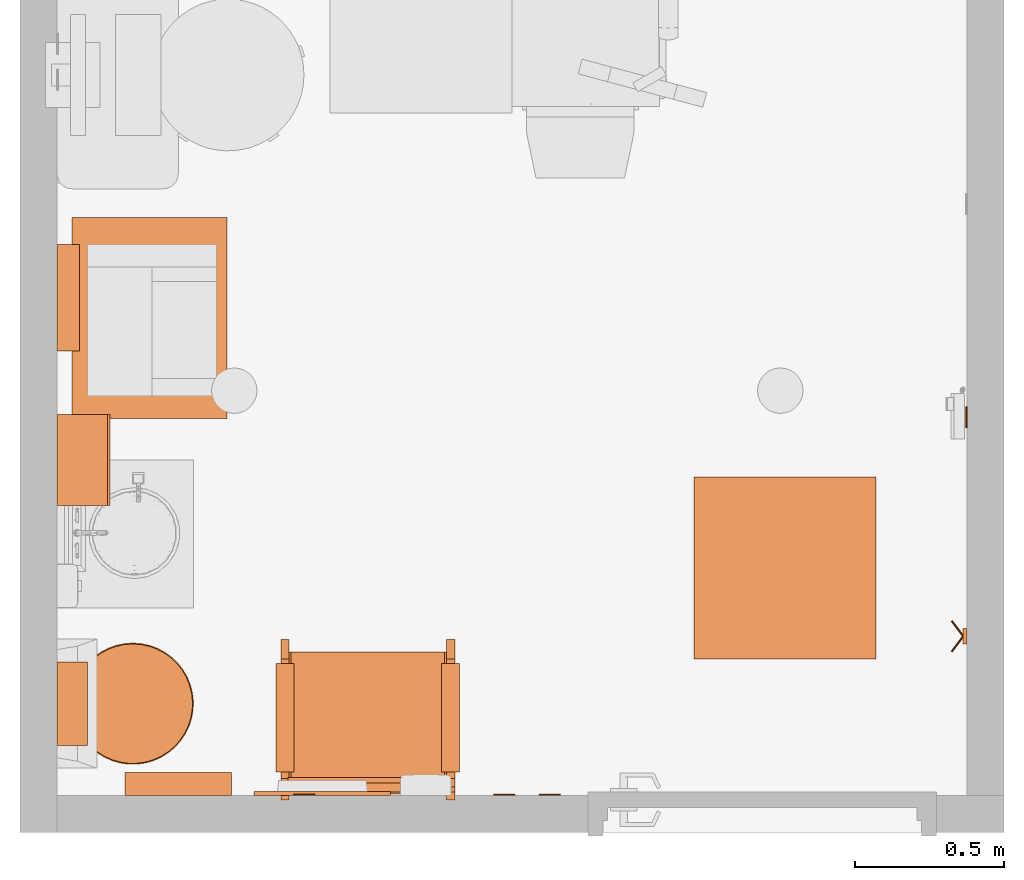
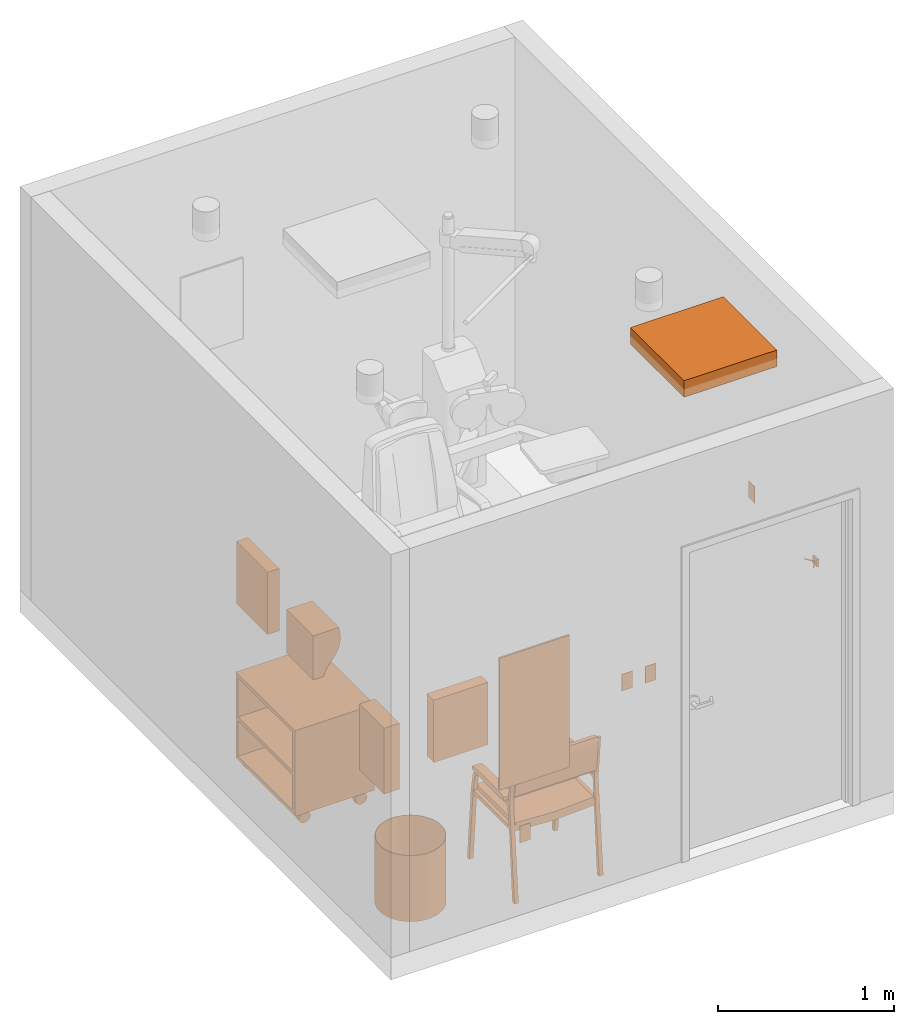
# One storey, part 5 of 11: 14 proxies.
"""IFC2X3 building model written with IfcOpenShell, lengths in feet."""

from ifc_helpers import new_model, entity, si_unit, converted_unit, derived_unit, direction, frame, frame_2d, origin, origin_2d_with_axis, place, context, subcontext, project, spatial, polyline, rectangle, circle, hollow_circle, outline, extrude, faceted_brep, source, transform, mapped, material, material_list, type_object, type_shapes, element, save


model = new_model("IFC2X3")

# Units and contexts
model_context = context("Model", 3, precision=0.0001, world=origin(), true_north=direction((6.12303176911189e-17, 1.0)))
body_context = subcontext(model_context, "Body", "Model", "MODEL_VIEW")
ifc_project = project(units=[converted_unit("LENGTHUNIT", "FOOT", entity("IfcRatioMeasure", 0.3048), si_unit("LENGTHUNIT", "METRE"), dimensions=[1, 0, 0, 0, 0, 0, 0]), converted_unit("AREAUNIT", "SQUARE FOOT", entity("IfcRatioMeasure", 0.09290304), si_unit("AREAUNIT", "SQUARE_METRE"), dimensions=[2, 0, 0, 0, 0, 0, 0]), converted_unit("VOLUMEUNIT", "CUBIC FOOT", entity("IfcRatioMeasure", 0.028316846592), si_unit("VOLUMEUNIT", "CUBIC_METRE"), dimensions=[3, 0, 0, 0, 0, 0, 0]), converted_unit("PLANEANGLEUNIT", "DEGREE", entity("IfcRatioMeasure", 0.0174532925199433), si_unit("PLANEANGLEUNIT", "RADIAN"), dimensions=[0, 0, 0, 0, 0, 0, 0]), si_unit("MASSUNIT", "GRAM", prefix="KILO"), derived_unit("MASSDENSITYUNIT", [(si_unit("MASSUNIT", "GRAM", prefix="KILO"), 1), (si_unit("LENGTHUNIT", "METRE"), -3)]), si_unit("TIMEUNIT", "SECOND"), si_unit("FREQUENCYUNIT", "HERTZ"), si_unit("THERMODYNAMICTEMPERATUREUNIT", "DEGREE_CELSIUS"), derived_unit("THERMALTRANSMITTANCEUNIT", [(si_unit("MASSUNIT", "GRAM", prefix="KILO"), 1), (si_unit("THERMODYNAMICTEMPERATUREUNIT", "KELVIN"), -1), (si_unit("TIMEUNIT", "SECOND"), -3)]), derived_unit("VOLUMETRICFLOWRATEUNIT", [(si_unit("LENGTHUNIT", "METRE"), 3), (si_unit("TIMEUNIT", "SECOND"), -1)]), si_unit("ELECTRICCURRENTUNIT", "AMPERE"), si_unit("ELECTRICVOLTAGEUNIT", "VOLT"), si_unit("POWERUNIT", "WATT"), si_unit("FORCEUNIT", "NEWTON"), si_unit("ILLUMINANCEUNIT", "LUX"), si_unit("LUMINOUSFLUXUNIT", "LUMEN"), si_unit("LUMINOUSINTENSITYUNIT", "CANDELA"), derived_unit("USERDEFINED", [(si_unit("MASSUNIT", "GRAM", prefix="KILO"), -1), (si_unit("LENGTHUNIT", "METRE"), -2), (si_unit("TIMEUNIT", "SECOND"), 3), (si_unit("LUMINOUSFLUXUNIT", "LUMEN"), 1)]), derived_unit("LINEARVELOCITYUNIT", [(si_unit("LENGTHUNIT", "METRE"), 1), (si_unit("TIMEUNIT", "SECOND"), -1)]), si_unit("PRESSUREUNIT", "PASCAL"), derived_unit("USERDEFINED", [(si_unit("LENGTHUNIT", "METRE"), -2), (si_unit("MASSUNIT", "GRAM", prefix="KILO"), 1), (si_unit("TIMEUNIT", "SECOND"), -2)])], contexts=[model_context])

# Site, building, storey, space
site_placement = place(None, origin())
site = spatial("IfcSite", under=ifc_project, at=site_placement, Name="Default", CompositionType="ELEMENT")
building_placement = place(site_placement, origin())
building = spatial("IfcBuilding", under=site, at=building_placement, Name="EYE CLINIC:  OPTHALMOLOGY AND OPTOMETRY SERVICES (Ch. 233)", CompositionType="ELEMENT")
storey_placement = place(building_placement, origin())
storey = spatial("IfcBuildingStorey", under=building, at=storey_placement, Name="DATUM", CompositionType="ELEMENT", Elevation=0.0)
space_placement = place(storey_placement, origin())
space = spatial("IfcSpace", under=storey, at=space_placement, Name="(OPET2)", CompositionType="ELEMENT", InteriorOrExteriorSpace="INTERNAL")

# Proxies
building_element_proxy_type_1 = type_object("IfcBuildingElementProxyType", Name="M5562 - Tester, Visual Acuity, Video-Microprocessor Based", PredefinedType="NOTDEFINED")
shared_shape_1 = source(origin(), body_context, "Body", "Brep", [
    faceted_brep([(0.583333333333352, -0.250000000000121, 1.41666666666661), (-0.583333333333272, -0.250000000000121, 1.41666666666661), (-0.583333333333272, -0.250000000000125, 0.0), (0.583333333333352, -0.250000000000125, 0.0), (-0.499999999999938, -0.250000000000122, 1.33333333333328), (0.500000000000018, -0.250000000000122, 1.33333333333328), (0.500000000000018, -0.250000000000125, 0.0833333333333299), (-0.499999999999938, -0.250000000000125, 0.0833333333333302), (0.583333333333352, 0.0, 1.41666666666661), (0.583333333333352, 0.0, 0.0), (-0.583333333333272, 0.0, 0.0), (-0.583333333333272, 0.0, 1.41666666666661), (0.500000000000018, -0.190421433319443, 1.33333333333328), (-0.499999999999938, -0.190421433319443, 1.33333333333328), (-0.499999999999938, -0.190421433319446, 0.0833333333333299), (0.500000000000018, -0.190421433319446, 0.0833333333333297)], [[[0, 1, 2, 3], [4, 5, 6, 7]], [[8, 9, 10, 11]], [[1, 0, 8, 11]], [[2, 1, 11, 10]], [[3, 2, 10, 9]], [[0, 3, 9, 8]], [[12, 13, 14, 15]], [[13, 12, 5, 4]], [[14, 13, 4, 7]], [[15, 14, 7, 6]], [[12, 15, 6, 5]]]),
])
type_shapes(building_element_proxy_type_1, [shared_shape_1])
for number, where, z_axis, x_axis in (
    (1, (-35.8602308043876, 4.27637568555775, 4.0), (0.0, 0.0, 1.0), (0.0, 1.0, 0.0)),
    (2, (-34.5268974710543, -1.19237431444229, 3.79166666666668), (0.0, 0.0, 1.0), (-1.0, 0.0, 0.0)),
):
    element("IfcBuildingElementProxy", number, at=place(space_placement, frame(where, z_axis=z_axis, x_axis=x_axis)), inside=space, type_object=building_element_proxy_type_1, Name="M5562 - Tester, Visual Acuity, Video-Microprocessor Based:M5562 - Tester, Visual Acuity, Video-Microprocessor Based", ObjectType="M5562 - Tester, Visual Acuity, Video-Microprocessor Based", context=body_context, shape_type="MappedRepresentation", body=[
        mapped(shared_shape_1, transform((0.0, 0.0, 0.0), scale=1.0)),
    ])
building_element_proxy_type_2 = type_object("IfcBuildingElementProxyType", Name="24\" x 24\"", PredefinedType="NOTDEFINED")
shared_shape_2 = source(origin(), body_context, "Body", "SweptSolid", [
    extrude(rectangle(XDim=2.0, YDim=2.0, at=origin_2d_with_axis()), frame((0.0, 0.0, 8.0)), (0.0, 0.0, 1.0), 0.375),
])
type_shapes(building_element_proxy_type_2, [shared_shape_2])
proxy_1_placement = place(space_placement, frame((-27.8602308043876, 1.30762568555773, 1.0)))
element("IfcBuildingElementProxy", 3, at=proxy_1_placement, inside=space, type_object=building_element_proxy_type_2, Name="Return Register:24\" x 24\"", ObjectType="24\" x 24\"", context=body_context, shape_type="MappedRepresentation", body=[
    mapped(shared_shape_2, transform((0.0, 0.0, 0.0), scale=1.0)),
])
building_element_proxy_type_3 = type_object("IfcBuildingElementProxyType", Name="F0205 - Side Chair with Arms", PredefinedType="NOTDEFINED")
shared_shape_3 = source(origin(), body_context, "Body", "SweptSolid", [
    extrude(outline(polyline([(-0.104007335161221, -0.374369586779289), (-0.027711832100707, -0.374369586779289), (-0.0197350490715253, -0.338348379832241), (0.00592434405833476, -0.182113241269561), (0.0162560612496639, -0.135457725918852), (0.0457826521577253, -0.00212284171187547), (0.0856087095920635, 0.177721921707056), (0.112798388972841, 0.276572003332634), (0.120257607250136, 0.307674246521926), (0.129202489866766, 0.415216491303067), (0.045581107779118, 0.433734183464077), (0.0167028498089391, 0.395704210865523), (-0.0364083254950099, 0.222671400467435), (-0.125070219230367, -0.177704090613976), (-0.13682888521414, -0.27538652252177), (-0.128352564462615, -0.36942248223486), (-0.104007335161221, -0.374369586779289)])), frame((-0.891159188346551, -0.878769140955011, 2.73061112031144), z_axis=(0.0, 1.0, 0.0), x_axis=(0.991475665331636, 0.0, -0.130291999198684)), (0.0, 0.0, 1.0), 1.75919993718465),
    extrude(outline(polyline([(0.0907668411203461, -0.842703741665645), (0.261538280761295, -0.842703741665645), (0.265730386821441, -0.773999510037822), (0.127479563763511, 0.0287496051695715), (-0.0923338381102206, 0.813085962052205), (-0.125373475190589, 0.873420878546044), (-0.279635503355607, 0.800086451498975), (-0.270660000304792, 0.752608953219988), (-0.0560029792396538, -0.0126173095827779), (0.0784907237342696, -0.795927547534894), (0.0907668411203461, -0.842703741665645)])), frame((-0.90556950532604, 0.000822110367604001, 1.62079321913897), z_axis=(1.0, 0.0, 0.0), x_axis=(0.0, -0.219936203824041, -0.975514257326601)), (0.0, 0.0, 1.0), 1.47211210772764),
    extrude(outline(polyline([(-0.552031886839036, -0.234422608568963), (-0.484734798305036, -0.234422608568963), (-0.233837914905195, -0.160903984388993), (0.324339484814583, 0.0422559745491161), (0.453697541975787, 0.101150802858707), (0.564536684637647, 0.176717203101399), (0.51204038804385, 0.250193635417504), (0.420212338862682, 0.216770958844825), (0.254858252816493, 0.145732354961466), (-0.246233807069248, -0.0366502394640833), (-0.436544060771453, -0.0986810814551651), (-0.576302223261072, -0.167740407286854), (-0.552031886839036, -0.234422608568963)])), frame((-0.1510824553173, -1.00916916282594, 2.22827697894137), z_axis=(0.0, 1.0, 0.0), x_axis=(0.939692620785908, 0.0, 0.34202014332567)), (0.0, 0.0, 1.0), 0.198199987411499),
    extrude(outline(polyline([(-0.525375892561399, -0.221085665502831), (-0.458078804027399, -0.221085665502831), (-0.207181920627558, -0.147567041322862), (0.350995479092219, 0.0555929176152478), (0.480353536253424, 0.114487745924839), (0.591192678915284, 0.190054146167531), (0.551062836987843, 0.246221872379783), (0.114629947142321, 0.0873732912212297), (0.281514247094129, 0.159069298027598), (-0.219577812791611, -0.0233132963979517), (-0.409888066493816, -0.0853441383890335), (-0.549646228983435, -0.154403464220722), (-0.525375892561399, -0.221085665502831)])), frame((-0.180692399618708, 0.814330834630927, 2.23169271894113), z_axis=(0.0, 1.0, 0.0), x_axis=(0.939692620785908, 0.0, 0.34202014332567)), (0.0, 0.0, 1.0), 0.196499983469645),
    extrude(outline(polyline([(0.0166377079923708, -0.666422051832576), (0.099971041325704, -0.666422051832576), (-0.0172324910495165, 0.673220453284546), (-0.0993762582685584, 0.659623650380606), (0.0166377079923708, -0.666422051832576)])), frame((-0.182442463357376, -0.954369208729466, 1.61480726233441), z_axis=(0.0, 1.0, 0.0), x_axis=(0.0871557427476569, 0.0, -0.996194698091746)), (0.0, 0.0, 1.0), 0.0833333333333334),
    extrude(outline(polyline([(0.0166377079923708, -0.666422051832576), (0.099971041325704, -0.666422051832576), (-0.0172324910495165, 0.673220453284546), (-0.0993762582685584, 0.659623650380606), (0.0166377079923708, -0.666422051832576)])), frame((-0.182442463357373, 0.867430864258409, 1.61480726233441), z_axis=(0.0, 1.0, 0.0), x_axis=(0.0871557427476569, 0.0, -0.996194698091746)), (0.0, 0.0, 1.0), 0.0833333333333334),
    extrude(outline(polyline([(0.811855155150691, -1.61770011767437), (0.895188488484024, -1.61770011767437), (0.71143329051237, 0.489199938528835), (0.806416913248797, 1.46713632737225), (0.751033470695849, 1.46713632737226), (0.656855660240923, 0.571094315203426), (-0.516612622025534, 0.571094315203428), (-0.653571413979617, 0.441277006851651), (-0.728375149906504, 0.0391907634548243), (-0.871611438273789, -1.61770011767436), (-0.791571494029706, -1.61770011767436), (-0.646611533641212, 0.0391998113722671), (-0.578172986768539, 0.407071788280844), (-0.496044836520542, 0.48919993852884), (0.649788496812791, 0.489199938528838), (0.811855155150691, -1.61770011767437)])), frame((-0.163768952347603, -0.954369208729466, 1.61770011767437), z_axis=(0.0, 1.0, 0.0), x_axis=(-1.0, 0.0, 0.0)), (0.0, 0.0, 1.0), 0.0885709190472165),
    extrude(outline(polyline([(0.811855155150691, -1.61770011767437), (0.895188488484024, -1.61770011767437), (0.71143329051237, 0.489199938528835), (0.806416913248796, 1.46713632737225), (0.751033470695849, 1.46713632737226), (0.656855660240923, 0.571094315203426), (-0.516612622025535, 0.571094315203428), (-0.653571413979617, 0.441277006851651), (-0.728375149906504, 0.0391907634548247), (-0.871611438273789, -1.61770011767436), (-0.791571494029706, -1.61770011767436), (-0.646611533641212, 0.0391998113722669), (-0.578172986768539, 0.407071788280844), (-0.496044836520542, 0.48919993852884), (0.649788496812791, 0.489199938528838), (0.811855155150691, -1.61770011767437)])), frame((-0.1637689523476, 0.867430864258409, 1.61770011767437), z_axis=(0.0, 1.0, 0.0), x_axis=(-1.0, 0.0, 0.0)), (0.0, 0.0, 1.0), 0.0885709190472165),
])
type_shapes(building_element_proxy_type_3, [shared_shape_3])
proxy_2_placement = place(space_placement, frame((-32.4435641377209, -0.183765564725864, 0.0), z_axis=(0.0, 0.0, 1.0), x_axis=(0.0, 1.0, 0.0)))
element("IfcBuildingElementProxy", 4, at=proxy_2_placement, inside=space, type_object=building_element_proxy_type_3, Name="F0205 - Side Chair with Arms:F0205 - Side Chair with Arms", ObjectType="F0205 - Side Chair with Arms", context=body_context, shape_type="MappedRepresentation", body=[
    mapped(shared_shape_3, transform((0.0, 0.0, 0.0), scale=1.0)),
])
ifc_material_1 = material(Name="mirror glass")
ifc_material_2 = material(Name="Stainless Steel")
ifc_material_list_1 = material_list([ifc_material_1, ifc_material_2])
ifc_material_list_2 = material_list([ifc_material_1, ifc_material_2])
building_element_proxy_type_4 = type_object("IfcBuildingElementProxyType", Name="A1066 - Mirror, Float Glass", PredefinedType="NOTDEFINED", material=ifc_material_list_2)
shared_shape_4 = source(origin(), body_context, "Body", "SweptSolid", [
    extrude(rectangle(XDim=0.0208333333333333, YDim=1.33333333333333, at=origin_2d_with_axis()), frame((0.0, -0.0104166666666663, 3.33333333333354), z_axis=(0.0, 0.0, 1.0), x_axis=(0.0, 1.0, 0.0)), (0.0, 0.0, 1.0), 2.8333333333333),
    extrude(outline(polyline([(-0.75, -1.49999999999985), (0.75, -1.49999999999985), (0.75, 1.49999999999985), (-0.75, 1.49999999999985), (-0.75, -1.49999999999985)]), holes=[polyline([(-0.666666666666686, 1.4166666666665), (0.666666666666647, 1.41666666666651), (0.666666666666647, -1.41666666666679), (-0.666666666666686, -1.41666666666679), (-0.666666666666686, 1.4166666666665)])]), frame((0.0, -0.0416666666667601, 4.75000000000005), z_axis=(0.0, 1.0, 0.0), x_axis=(1.0, 0.0, 0.0)), (0.0, 0.0, 1.0), 0.0416666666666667),
])
type_shapes(building_element_proxy_type_4, [shared_shape_4])
proxy_3_placement = place(space_placement, frame((-32.9435641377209, -1.19237431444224, -0.583333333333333), z_axis=(0.0, 0.0, 1.0), x_axis=(-1.0, 0.0, 0.0)))
element("IfcBuildingElementProxy", 5, at=proxy_3_placement, inside=space, type_object=building_element_proxy_type_4, material=ifc_material_list_1, Name="A1066 - Mirror, Float Glass:A1066 - Mirror, Float Glass", ObjectType="A1066 - Mirror, Float Glass", context=body_context, shape_type="MappedRepresentation", body=[
    mapped(shared_shape_4, transform((0.0, 0.0, 0.0), scale=1.0)),
])
building_element_proxy_type_5 = type_object("IfcBuildingElementProxyType", Name="A5082 - Dispenser, Paper Towel, Sensor, Hands Free", PredefinedType="NOTDEFINED")
shared_shape_5 = source(origin(), body_context, "Body", "SweptSolid", [
    extrude(outline(polyline([(-0.394840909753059, -0.5716804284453), (0.162901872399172, -0.5716804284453), (0.181242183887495, -0.466986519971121), (0.189922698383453, -0.373421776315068), (0.189954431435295, -0.2899834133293), (0.182348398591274, -0.215668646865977), (0.168115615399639, -0.149474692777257), (0.148267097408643, -0.0903987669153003), (0.123813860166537, -0.0374380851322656), (0.095766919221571, 0.0104101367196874), (0.0651372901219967, 0.0541486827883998), (0.0329359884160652, 0.0947803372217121), (0.000174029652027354, 0.133307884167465), (-0.0321375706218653, 0.1707341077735), (-0.0629877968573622, 0.208061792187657), (-0.0913656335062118, 0.246293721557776), (-0.116260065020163, 0.2864326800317), (-0.136660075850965, 0.329481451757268), (-0.151554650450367, 0.376442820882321), (-0.159932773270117, 0.4283195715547), (-0.394840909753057, 0.428319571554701), (-0.394840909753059, -0.5716804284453)])), frame((0.0, -0.394840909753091, 0.428319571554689), z_axis=(1.0, 0.0, 0.0), x_axis=(0.0, -1.0, 0.0)), (0.0, 0.0, 1.0), 1.0),
])
type_shapes(building_element_proxy_type_5, [shared_shape_5])
proxy_4_placement = place(space_placement, frame((-35.8602308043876, 1.99512568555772, 4.0), z_axis=(0.0, 0.0, 1.0), x_axis=(0.0, 1.0, 0.0)))
element("IfcBuildingElementProxy", 6, at=proxy_4_placement, inside=space, type_object=building_element_proxy_type_5, Name="A5082 - Dispenser, Paper Towel, Sensor, Hands Free:A5082 - Dispenser, Paper Towel, Sensor, Hands Free", ObjectType="A5082 - Dispenser, Paper Towel, Sensor, Hands Free", context=body_context, shape_type="MappedRepresentation", body=[
    mapped(shared_shape_5, transform((0.0, 0.0, 0.0), scale=1.0)),
])
building_element_proxy_type_6 = type_object("IfcBuildingElementProxyType", Name="A5145 - Hook, Garment, Double", PredefinedType="NOTDEFINED")
shared_shape_6 = source(origin(), body_context, "Body", "SweptSolid", [
    extrude(circle(Radius=0.0105952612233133, at=frame_2d((-1.64551454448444e-31, -4.16333634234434e-17), x_axis=(1.0, 0.0))), frame((-0.169086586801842, -0.168481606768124, 0.0833333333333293), z_axis=(0.799999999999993, 0.60000000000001, 0.0), x_axis=(0.60000000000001, -0.799999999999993, 0.0)), (0.0, 0.0, 1.0), 0.211358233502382),
    extrude(circle(Radius=0.0105952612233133, at=frame_2d((5.2041704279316e-19, 2.77555756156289e-17), x_axis=(1.0, 0.0))), frame((0.0, -0.0416666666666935, 0.083333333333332), z_axis=(0.799999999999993, -0.60000000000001, 0.0), x_axis=(-0.60000000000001, -0.799999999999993, 0.0)), (0.0, 0.0, 1.0), 0.211358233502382),
    extrude(rectangle(XDim=0.0416666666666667, YDim=0.166666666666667, at=origin_2d_with_axis()), frame((0.0, -0.0208333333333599, 0.0), z_axis=(0.0, 0.0, 1.0), x_axis=(0.0, 1.0, 0.0)), (0.0, 0.0, 1.0), 0.166666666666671),
])
type_shapes(building_element_proxy_type_6, [shared_shape_6])
proxy_5_placement = place(space_placement, frame((-25.8602308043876, 0.557625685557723, 4.0), z_axis=(0.0, 0.0, 1.0), x_axis=(0.0, -1.0, 0.0)))
element("IfcBuildingElementProxy", 7, at=proxy_5_placement, inside=space, type_object=building_element_proxy_type_6, Name="A5145 - Hook, Garment, Double:A5145 - Hook, Garment, Double", ObjectType="A5145 - Hook, Garment, Double", context=body_context, shape_type="MappedRepresentation", body=[
    mapped(shared_shape_6, transform((0.0, 0.0, 0.0), scale=1.0)),
])
building_element_proxy_type_7 = type_object("IfcBuildingElementProxyType", Name="UXX16 - Stand, Printer, Mobile", PredefinedType="NOTDEFINED")
shared_shape_7 = source(origin(), body_context, "Body", "SweptSolid", [
    extrude(rectangle(XDim=0.0644885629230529, YDim=2.02398604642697, at=frame_2d((-8.88178419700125e-16, 4.44089209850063e-16), x_axis=(1.0, 0.0))), frame((5.56349623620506, -9.05741542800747, 0.342677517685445), z_axis=(0.0, 0.0, 1.0), x_axis=(0.0, -1.0, 0.0)), (0.0, 0.0, 1.0), 1.7819705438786),
    extrude(rectangle(XDim=1.64384477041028, YDim=2.02398604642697, at=frame_2d((0.0, -4.44089209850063e-16), x_axis=(1.0, 0.0))), frame((5.56349623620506, -9.91158209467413, 1.15032945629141), z_axis=(0.0, 0.0, 1.0), x_axis=(0.0, -1.0, 0.0)), (0.0, 0.0, 1.0), 0.0833333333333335),
    extrude(rectangle(XDim=1.70833333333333, YDim=2.02398604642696, at=frame_2d((1.77635683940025e-15, 0.0), x_axis=(1.0, 0.0))), frame((5.56349623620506, -9.8793378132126, 0.259344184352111), z_axis=(0.0, 0.0, 1.0), x_axis=(0.0, -1.0, 0.0)), (0.0, 0.0, 1.0), 0.0833333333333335),
    extrude(circle(Radius=0.125, at=frame_2d((0.0, -2.22044604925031e-16), x_axis=(1.0, 0.0))), frame((4.49956696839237, -9.28426130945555, 0.125000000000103), z_axis=(1.0, 0.0, 0.0), x_axis=(0.0, 1.0, 0.0)), (0.0, 0.0, 1.0), 0.103175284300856),
    extrude(circle(Radius=0.125, at=frame_2d((0.0, -2.22044604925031e-16), x_axis=(1.0, 0.0))), frame((4.49956696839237, -10.5010078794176, 0.134074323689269), z_axis=(1.0, 0.0, 0.0), x_axis=(0.0, 1.0, 0.0)), (0.0, 0.0, 1.0), 0.103175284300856),
    extrude(circle(Radius=0.125, at=frame_2d((1.1339875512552e-30, -2.22044604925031e-16), x_axis=(1.0, 0.0))), frame((6.5243065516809, -9.28426130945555, 0.125010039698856), z_axis=(1.0, 0.0, 0.0), x_axis=(0.0, 1.0, 0.0)), (0.0, 0.0, 1.0), 0.103175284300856),
    extrude(circle(Radius=0.125, at=frame_2d((0.0, -2.22044604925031e-16), x_axis=(1.0, 0.0))), frame((6.5243065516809, -10.5010078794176, 0.134084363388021), z_axis=(1.0, 0.0, 0.0), x_axis=(0.0, 1.0, 0.0)), (0.0, 0.0, 1.0), 0.103175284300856),
    extrude(rectangle(XDim=1.70833333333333, YDim=2.02398604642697, at=frame_2d((1.77635683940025e-15, 4.44089209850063e-16), x_axis=(1.0, 0.0))), frame((5.56349623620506, -9.8793378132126, 2.12464806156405), z_axis=(0.0, 0.0, 1.0), x_axis=(0.0, -1.0, 0.0)), (0.0, 0.0, 1.0), 0.083333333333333),
    extrude(rectangle(XDim=1.70833333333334, YDim=0.101013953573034, at=frame_2d((8.88178419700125e-16, 0.0), x_axis=(1.0, 0.0))), frame((6.62599623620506, -9.87933781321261, 0.25934418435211), z_axis=(0.0, 0.0, 1.0), x_axis=(0.0, -1.0, 0.0)), (0.0, 0.0, 1.0), 1.94863721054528),
    extrude(rectangle(XDim=1.70833333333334, YDim=0.0833333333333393, at=frame_2d((8.88178419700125e-16, 0.0), x_axis=(1.0, 0.0))), frame((4.5098365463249, -9.8793378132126, 0.259344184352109), z_axis=(0.0, 0.0, 1.0), x_axis=(0.0, -1.0, 0.0)), (0.0, 0.0, 1.0), 1.94863721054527),
])
type_shapes(building_element_proxy_type_7, [shared_shape_7])
proxy_6_placement = place(storey_placement, frame((-24.9641472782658, 9.628324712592, 0.0), z_axis=(0.0, 0.0, 1.0), x_axis=(0.0, -1.0, 0.0)))
element("IfcBuildingElementProxy", 8, at=proxy_6_placement, inside=storey, type_object=building_element_proxy_type_7, Name="F0836 - Stand, Printer, Mobile:UXX16 - Stand, Printer, Mobile", ObjectType="UXX16 - Stand, Printer, Mobile", context=body_context, shape_type="MappedRepresentation", body=[
    mapped(shared_shape_7, transform((0.0, 0.0, 0.0), scale=1.0)),
])
building_element_proxy_type_8 = type_object("IfcBuildingElementProxyType", Name="A5107 - Dispenser, Glove, Surgical-Examination, Wall Mntd", PredefinedType="NOTDEFINED")
shared_shape_8 = source(origin(), body_context, "Body", "SweptSolid", [
    extrude(rectangle(XDim=0.916666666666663, YDim=0.333333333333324, at=frame_2d((0.0, 2.77555756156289e-17), x_axis=(1.0, 0.0))), frame((0.0, -0.166666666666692, 0.0), z_axis=(0.0, 0.0, 1.0), x_axis=(-1.0, 0.0, 0.0)), (0.0, 0.0, 1.0), 1.5),
])
type_shapes(building_element_proxy_type_8, [shared_shape_8])
proxy_7_placement = place(space_placement, frame((-35.8602308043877, -0.183765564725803, 3.0), z_axis=(0.0, 0.0, 1.0), x_axis=(0.0, 1.0, 0.0)))
element("IfcBuildingElementProxy", 9, at=proxy_7_placement, inside=space, type_object=building_element_proxy_type_8, Name="A5107 - Dispenser, Glove, Surgical-Examination, Wall Mntd:A5107 - Dispenser, Glove, Surgical-Examination, Wall Mntd", ObjectType="A5107 - Dispenser, Glove, Surgical-Examination, Wall Mntd", context=body_context, shape_type="MappedRepresentation", body=[
    mapped(shared_shape_8, transform((0.0, 0.0, 0.0), scale=1.0)),
])
building_element_proxy_type_9 = type_object("IfcBuildingElementProxyType", Name="F2000 - Basket, Wastepaper 16\"x 16\"", PredefinedType="NOTDEFINED")
shared_shape_9 = source(origin(), body_context, "Body", "SweptSolid", [
    extrude(circle(Radius=0.666666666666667, at=frame_2d((0.0, -1.07702971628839e-15), x_axis=(1.0, 0.0))), origin(), (0.0, 0.0, 1.0), 0.0104166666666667),
    extrude(hollow_circle(Radius=0.666666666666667, WallThickness=0.0104166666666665, at=frame_2d((0.0, -1.07702971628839e-15), x_axis=(1.0, 0.0))), frame((0.0, 0.0, 0.0104166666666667)), (0.0, 0.0, 1.0), 1.48958333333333),
])
type_shapes(building_element_proxy_type_9, [shared_shape_9])
proxy_8_placement = place(space_placement, frame((-35.0268974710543, -0.183765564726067, 0.0), z_axis=(0.0, 0.0, 1.0), x_axis=(0.0, 1.0, 0.0)))
element("IfcBuildingElementProxy", 10, at=proxy_8_placement, inside=space, type_object=building_element_proxy_type_9, Name="F2000 - Basket, Wastepaper, Fire Resistant:F2000 - Basket, Wastepaper 16\"x 16\"", ObjectType="F2000 - Basket, Wastepaper 16\"x 16\"", context=body_context, shape_type="MappedRepresentation", body=[
    mapped(shared_shape_9, transform((0.0, 0.0, 0.0), scale=1.0)),
])
building_element_proxy_type_10 = type_object("IfcBuildingElementProxyType", Name="Duplex", PredefinedType="NOTDEFINED")
shared_shape_10 = source(origin(), body_context, "Body", "SweptSolid", [
    extrude(rectangle(XDim=0.0156249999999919, YDim=0.229166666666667, at=origin_2d_with_axis()), frame((0.0, 0.210937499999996, 0.0), z_axis=(0.0, 0.0, 1.0), x_axis=(0.0, 1.0, 0.0)), (0.0, 0.0, 1.0), 0.37500000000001),
])
type_shapes(building_element_proxy_type_10, [shared_shape_10])
proxy_9_placement = place(space_placement, frame((-33.1414808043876, -1.39549931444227, 1.3125)))
element("IfcBuildingElementProxy", 11, at=proxy_9_placement, inside=space, type_object=building_element_proxy_type_10, Name="Outlet, Duplex, Wall:Duplex", ObjectType="Duplex", context=body_context, shape_type="MappedRepresentation", body=[
    mapped(shared_shape_10, transform((0.0, 0.0, 0.0), scale=1.0)),
])
building_element_proxy_type_11 = type_object("IfcBuildingElementProxyType", Name="Telephone/Data", PredefinedType="NOTDEFINED")
shared_shape_11 = source(origin(), body_context, "Body", "SweptSolid", [
    extrude(rectangle(XDim=0.0156249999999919, YDim=0.229166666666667, at=origin_2d_with_axis()), frame((0.0, 0.210937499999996, 0.0), z_axis=(0.0, 0.0, 1.0), x_axis=(0.0, 1.0, 0.0)), (0.0, 0.0, 1.0), 0.375),
])
type_shapes(building_element_proxy_type_11, [shared_shape_11])
proxy_10_placement = place(space_placement, frame((-25.6571058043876, 2.96387568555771, 4.0), z_axis=(0.0, 0.0, 1.0), x_axis=(0.0, 1.0, 0.0)))
element("IfcBuildingElementProxy", 12, at=proxy_10_placement, inside=space, type_object=building_element_proxy_type_11, Name="Outlet, Communications:Telephone/Data", ObjectType="Telephone/Data", context=body_context, shape_type="MappedRepresentation", body=[
    mapped(shared_shape_11, transform((0.0, 0.0, 0.0), scale=1.0)),
])
building_element_proxy_type_12 = type_object("IfcBuildingElementProxyType", Name="Single", PredefinedType="NOTDEFINED")
shared_shape_12 = source(origin(), body_context, "Body", "SweptSolid", [
    extrude(rectangle(XDim=0.0156249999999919, YDim=0.229166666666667, at=frame_2d((0.0, -1.11022302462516e-16), x_axis=(1.0, 0.0))), frame((0.0, 0.210937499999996, 0.0), z_axis=(0.0, 0.0, 1.0), x_axis=(0.0, 1.0, 0.0)), (0.0, 0.0, 1.0), 0.37500000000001),
])
type_shapes(building_element_proxy_type_12, [shared_shape_12])
for number, where, name in (
    (13, (-30.443564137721, -1.39549931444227, 4.0), "Switch, Single:Single"),
    (14, (-30.943564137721, -1.39549931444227, 4.0), "Switch, Single:Single"),
):
    element("IfcBuildingElementProxy", number, at=place(space_placement, frame(where)), inside=space, type_object=building_element_proxy_type_12, Name=name, ObjectType="Single", context=body_context, shape_type="MappedRepresentation", body=[
        mapped(shared_shape_12, transform((0.0, 0.0, 0.0), scale=1.0)),
    ])

save(model, "model.ifc")
